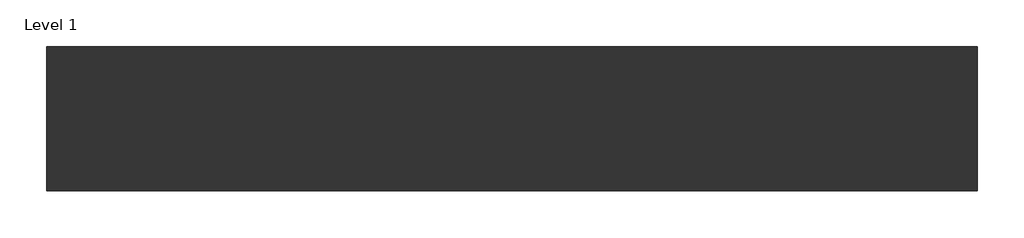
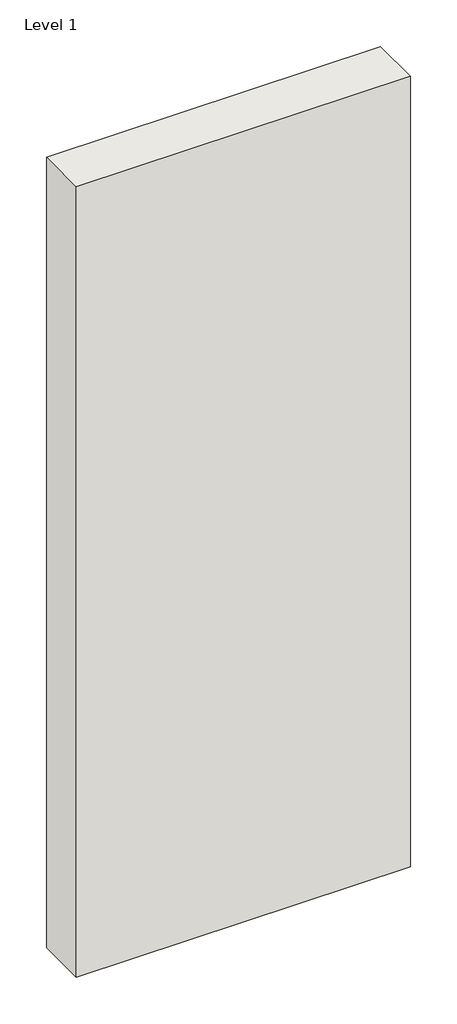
# One storey: 1 wall.
"""IFC4 building model written with IfcOpenShell, lengths in millimetres."""

import ifcopenshell
import ifcopenshell.guid

model = None  # the IFC model being written
_history = None  # IfcOwnerHistory: only IFC2X3 demands one
_inside = {}  # id of a spatial element -> (the spatial element, [elements in it])
_under = {}  # id of a project, library or spatial element -> (it, [spatial elements below it])
_declared = {}  # id of a project -> (the project, [libraries it declares])
_typed = {}  # id of a type object -> (the type object, [elements of that type])
_made_of = {}  # id of a material, layer set ... -> (it, [elements and type objects made of it])


def new_model(schema):
    """Start an empty IFC model of exactly this schema.

    Asked for "IFC4X3", IfcOpenShell would pick the latest addendum, in which some entities
    have other attributes; the version numbers below select the first issue.
    IFC2X3 requires an IfcOwnerHistory on every rooted entity: one is made here for all.
    """
    global model, _history
    if schema == "IFC4X3":
        model = ifcopenshell.file(schema_version=(4, 3, 0, 0))
    else:
        model = ifcopenshell.file(schema=schema)
    _inside.clear()
    _under.clear()
    _declared.clear()
    _typed.clear()
    _made_of.clear()
    _history = None
    if model.schema == "IFC2X3":
        org = make("IfcOrganization", Name="unknown")
        user = make(
            "IfcPersonAndOrganization",
            ThePerson=make("IfcPerson", FamilyName="unknown"),
            TheOrganization=org,
        )
        app = make(
            "IfcApplication",
            ApplicationDeveloper=org,
            Version="unknown",
            ApplicationFullName="unknown",
            ApplicationIdentifier="unknown",
        )
        _history = make(
            "IfcOwnerHistory",
            OwningUser=user,
            OwningApplication=app,
            ChangeAction="ADDED",
            CreationDate=0,
        )
    return model


def make(cls, **values):
    """One entity of the class cls with the attributes given. An attribute that is None is left unset."""
    return model.create_entity(
        cls, **{name: value for name, value in values.items() if value is not None}
    )


def rooted(cls, **values):
    """An entity with a GlobalId (a new one), such as an element, a storey or a relation."""
    return make(cls, GlobalId=ifcopenshell.guid.new(), OwnerHistory=_history, **values)


def si_unit(unit_type, name, prefix=None):
    """IfcSIUnit, for example si_unit("LENGTHUNIT", "METRE", prefix="MILLI")."""
    return make("IfcSIUnit", UnitType=unit_type, Prefix=prefix, Name=name)


def assignment(units):
    """IfcUnitAssignment: the units of a project."""
    return None if units is None else make("IfcUnitAssignment", Units=units)


def point(xyz):
    """IfcCartesianPoint."""
    return None if xyz is None else make("IfcCartesianPoint", Coordinates=xyz)


def direction(xyz):
    """IfcDirection."""
    return None if xyz is None else make("IfcDirection", DirectionRatios=xyz)


def frame(location, z_axis=None, x_axis=None):
    """IfcAxis2Placement3D, a coordinate frame: its origin and axes. An axis left out is left unset."""
    return make(
        "IfcAxis2Placement3D",
        Location=point(location),
        Axis=direction(z_axis),
        RefDirection=direction(x_axis),
    )


def origin():
    """The frame at (0, 0, 0) with its axes left unset."""
    return frame((0.0, 0.0, 0.0))


def origin_with_axes():
    """The frame at (0, 0, 0) with the z axis (0, 0, 1) and the x axis (1, 0, 0) written out."""
    return frame((0.0, 0.0, 0.0), z_axis=(0.0, 0.0, 1.0), x_axis=(1.0, 0.0, 0.0))


def place(relative_to, where):
    """IfcLocalPlacement: puts the frame where relative to a parent placement (None: the world)."""
    return make(
        "IfcLocalPlacement", PlacementRelTo=relative_to, RelativePlacement=where
    )


def context(
    kind, dimensions, precision=None, world=None, true_north=None, identifier=None
):
    """IfcGeometricRepresentationContext, for example the 3D "Model" context."""
    return make(
        "IfcGeometricRepresentationContext",
        ContextIdentifier=identifier,
        ContextType=kind,
        CoordinateSpaceDimension=dimensions,
        Precision=precision,
        WorldCoordinateSystem=world,
        TrueNorth=true_north,
    )


def project(units=None, contexts=None):
    """IfcProject with its units and contexts."""
    return rooted(
        "IfcProject",
        Name="project",
        RepresentationContexts=contexts,
        UnitsInContext=assignment(units),
    )


def spatial(cls, under=None, at=None, **own):
    """A site, building, storey or space (cls), placed at a placement, below another one or the project."""
    s = rooted(cls, ObjectPlacement=at, **own)
    if under is not None:
        _under.setdefault(under.id(), (under, []))[1].append(s)
    return s


def polyline(points):
    """IfcPolyline through the points."""
    return make("IfcPolyline", Points=[point(p) for p in points])


def outline(outer, holes=None, kind="AREA"):
    """IfcArbitraryClosedProfileDef: a profile drawn as a closed curve; with holes, ...WithVoids."""
    if holes is None:
        return make("IfcArbitraryClosedProfileDef", ProfileType=kind, OuterCurve=outer)
    return make(
        "IfcArbitraryProfileDefWithVoids",
        ProfileType=kind,
        OuterCurve=outer,
        InnerCurves=holes,
    )


def extrude(swept, where, along, depth):
    """IfcExtrudedAreaSolid: the profile swept, set in the frame where, extruded along a direction by depth."""
    return make(
        "IfcExtrudedAreaSolid",
        SweptArea=swept,
        Position=where,
        ExtrudedDirection=direction(along),
        Depth=depth,
    )


def shape(context_of_items, identifier, shape_type, items):
    """IfcShapeRepresentation: the items that make up one representation, for example the "Body"."""
    return make(
        "IfcShapeRepresentation",
        ContextOfItems=context_of_items,
        RepresentationIdentifier=identifier,
        RepresentationType=shape_type,
        Items=items,
    )


def made_of(thing, what):
    """Note that an element or type object is made of a material, layer set ...; save() writes the relation."""
    if what is not None:
        _made_of.setdefault(what.id(), (what, []))[1].append(thing)
    return thing


def element(
    cls,
    number,
    at=None,
    inside=None,
    cuts=None,
    type_object=None,
    material=None,
    context=None,
    identifier="Body",
    shape_type=None,
    held_by="IfcProductDefinitionShape",
    body=None,
    shapes=None,
    **own,
):
    """One element of the class cls, such as IfcWall. Its Tag is "e" and its number.

    at: its placement. inside: the storey or other place that contains it. cuts: it is an
    opening in that element (IfcRelVoidsElement). A single representation is given by context,
    identifier, shape_type and body (its items); several are given by shapes. held_by: the class
    of the entity that holds the representations. save() writes the other relations.
    """
    e = rooted(cls, Tag="e%d" % number, ObjectPlacement=at, **own)
    if body is not None:
        shapes = [shape(context, identifier, shape_type, body)]
    if shapes is not None:
        e.Representation = make(held_by, Representations=shapes)
    if inside is not None:
        _inside.setdefault(inside.id(), (inside, []))[1].append(e)
    if cuts is not None:
        rooted(
            "IfcRelVoidsElement", RelatingBuildingElement=cuts, RelatedOpeningElement=e
        )
    if type_object is not None:
        _typed.setdefault(type_object.id(), (type_object, []))[1].append(e)
    return made_of(e, material)


def aggregate(whole, parts):
    """IfcRelAggregates: a whole, such as a stair, and the parts it consists of."""
    return rooted("IfcRelAggregates", RelatingObject=whole, RelatedObjects=parts)


def save(model, path):
    """Write the relations noted so far, then the file.

    IfcRelAggregates (storeys below a building ...), IfcRelContainedInSpatialStructure (elements
    in a storey), IfcRelDefinesByType, IfcRelAssociatesMaterial and IfcRelDeclares: one each for
    every whole, place, type object, material and project.
    """
    for whole, parts in _under.values():
        aggregate(whole, parts)
    for where, things in _inside.values():
        rooted(
            "IfcRelContainedInSpatialStructure",
            RelatedElements=things,
            RelatingStructure=where,
        )
    for kind, things in _typed.values():
        rooted("IfcRelDefinesByType", RelatedObjects=things, RelatingType=kind)
    for what, things in _made_of.values():
        rooted("IfcRelAssociatesMaterial", RelatedObjects=things, RelatingMaterial=what)
    for by, libraries in _declared.values():
        rooted("IfcRelDeclares", RelatingContext=by, RelatedDefinitions=libraries)
    model.write(path)


model = new_model("IFC4")

# Units and contexts
model_context = context("Model", 3, world=origin())
ifc_project = project(units=[si_unit("LENGTHUNIT", "METRE", prefix="MILLI")], contexts=[model_context])

# Site, building, storey
site = spatial("IfcSite", under=ifc_project)
building = spatial("IfcBuilding", under=site)
storey = spatial("IfcBuildingStorey", under=building, Name="Level 1", Elevation=0.0)

# Wall
placement = place(None, origin())
element("IfcWall", 1, ObjectType="RIGIPS - 3.22.00 - EI 120, REI 120 - 5500 - 12dB", at=placement, inside=storey, context=model_context, shape_type="SweptSolid", body=[
    extrude(outline(polyline([(1000.0, -77.5), (0.0, -77.5), (0.0, 77.5), (1000.0, 77.5), (1000.0, -77.5)])), origin_with_axes(), (0.0, 0.0, 1.0), 2500.0),
])

save(model, "model.ifc")
